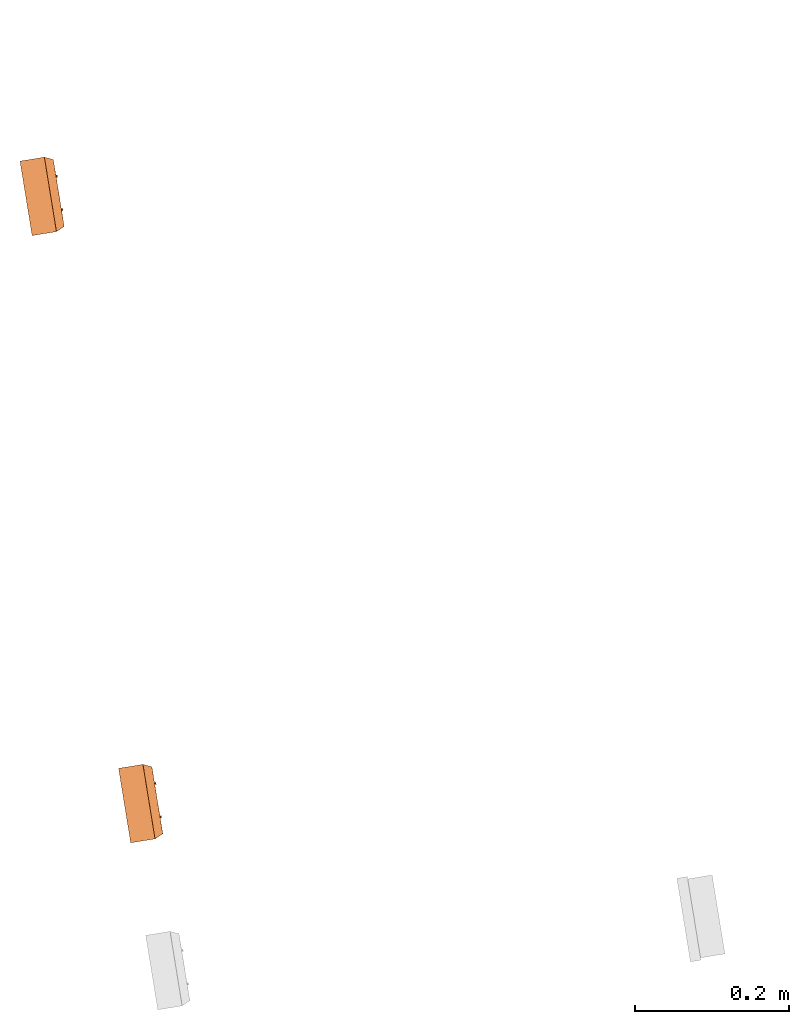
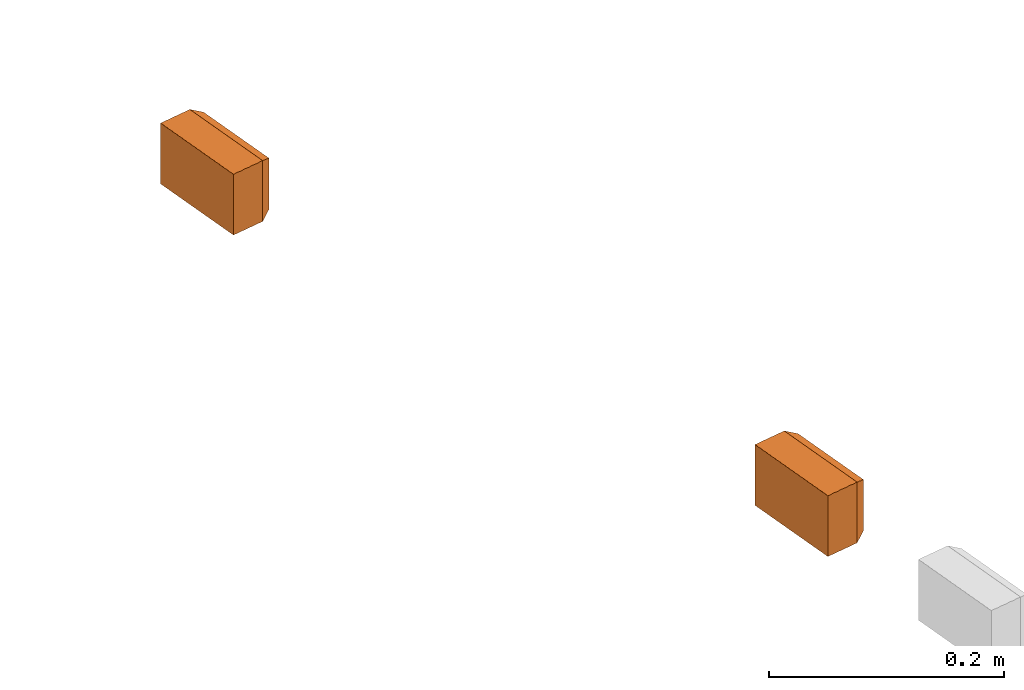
# One storey, part 22 of 33: 2 proxies.
"""IFC2X3 building model written with IfcOpenShell, lengths in millimetres."""

from ifc_helpers import new_model, entity, si_unit, converted_unit, derived_unit, direction, frame, frame_2d, origin, origin_with_axes, origin_2d_with_axis, place, context, subcontext, project, spatial, polyline, circle_curve, parameter, trimmed, segment, composite_curve, rectangle, circle, hollow_circle, outline, extrude, source, transform, mapped, material, type_object, element, save


model = new_model("IFC2X3")

# Units and contexts
plan_context = context("Plan", 3, precision=1e-05, world=origin_with_axes())
model_context = context("Model", 3, precision=0.01, world=origin(), true_north=direction((6.12323399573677e-17, 1.0)))
body_context = subcontext(model_context, "Body", "Model", "MODEL_VIEW")
ifc_project = project(units=[converted_unit("PLANEANGLEUNIT", "DEGREE", entity("IfcPositiveLengthMeasure", 0.0174532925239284), si_unit("PLANEANGLEUNIT", "RADIAN"), dimensions=[0, 0, 0, 0, 0, 0, 0]), si_unit("AREAUNIT", "SQUARE_METRE"), si_unit("LENGTHUNIT", "METRE", prefix="MILLI"), si_unit("MASSUNIT", "GRAM", prefix="KILO"), si_unit("POWERUNIT", "WATT"), si_unit("PRESSUREUNIT", "PASCAL", prefix="KILO"), si_unit("FORCEUNIT", "NEWTON", prefix="KILO"), si_unit("ELECTRICVOLTAGEUNIT", "VOLT"), si_unit("ELECTRICCURRENTUNIT", "AMPERE"), si_unit("THERMODYNAMICTEMPERATUREUNIT", "DEGREE_CELSIUS"), si_unit("TIMEUNIT", "SECOND"), si_unit("VOLUMEUNIT", "CUBIC_METRE"), derived_unit("LINEARVELOCITYUNIT", [(si_unit("LENGTHUNIT", "METRE"), 1), (si_unit("TIMEUNIT", "SECOND"), -1)]), derived_unit("VOLUMETRICFLOWRATEUNIT", [(si_unit("VOLUMEUNIT", "CUBIC_METRE"), 1), (si_unit("TIMEUNIT", "SECOND"), -1)]), derived_unit("THERMALTRANSMITTANCEUNIT", [(si_unit("POWERUNIT", "WATT"), 1), (si_unit("THERMODYNAMICTEMPERATUREUNIT", "KELVIN"), -1), (si_unit("AREAUNIT", "SQUARE_METRE"), -1)]), derived_unit("SOUNDPRESSUREUNIT", [(si_unit("PRESSUREUNIT", "PASCAL"), 1)])], contexts=[model_context, plan_context])

# Site, building, storey
site_placement = place(None, frame((-0.219946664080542, 0.12226179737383, 0.0), z_axis=(0.0, 0.0, 1.0), x_axis=(-0.160236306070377, 0.987078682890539, 0.0)))
site = spatial("IfcSite", under=ifc_project, at=site_placement, Name="Default", CompositionType="ELEMENT")
building_placement = place(site_placement, origin_with_axes())
building = spatial("IfcBuilding", under=site, at=building_placement, CompositionType="ELEMENT")
storey_placement = place(building_placement, frame((0.0, 0.0, 59000.0), z_axis=(0.0, 0.0, 1.0), x_axis=(1.0, 0.0, 0.0)))
storey = spatial("IfcBuildingStorey", under=building, at=storey_placement, Name="Nivå F", CompositionType="ELEMENT", Elevation=59000.0)

# Proxies
ifc_material = material(Name="<Unnamed>")
building_element_proxy_type = type_object("IfcBuildingElementProxyType", Name="Dobbel stikk på vegg 2P+J hor PH:EARTHED-SOCKET-2(HOR)", PredefinedType="NOTDEFINED", material=ifc_material)
shared_shape = source(origin(), body_context, "Body", "SweptSolid", [
    extrude(outline(composite_curve([segment(polyline([(-6.66666666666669, -6.66666666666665), (13.3333333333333, -6.66666666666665)]), True, "CONTINUOUS"), segment(trimmed(circle_curve(frame_2d((13.3333333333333, 13.3333333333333), x_axis=(0.0, -1.0)), 20.0), [parameter(270.0)], [parameter(5.08888749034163e-14)], True, "PARAMETER"), False, "CONTINUOUS"), segment(polyline([(-6.66666666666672, 13.3333333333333), (-6.66666666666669, -6.66666666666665)]), True, "CONTINUOUS")], self_intersect=False)), frame((35.3333333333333, 42.8999999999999, 13.3533333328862), z_axis=(0.0, 1.0, 0.0), x_axis=(0.0, 0.0, -1.0)), (0.0, 0.0, 1.0), 0.199999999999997),
    extrude(outline(composite_curve([segment(polyline([(-6.66666666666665, -6.66666666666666), (13.3333333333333, -6.66666666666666)]), True, "CONTINUOUS"), segment(trimmed(circle_curve(frame_2d((13.3333333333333, 13.3333333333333), x_axis=(-1.0, 0.0)), 20.0), [parameter(360.0)], [parameter(89.9999999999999)], True, "PARAMETER"), False, "CONTINUOUS"), segment(polyline([(-6.66666666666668, 13.3333333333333), (-6.66666666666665, -6.66666666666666)]), True, "CONTINUOUS")], self_intersect=False)), frame((35.3333333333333, 42.8999999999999, -13.3233333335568), z_axis=(0.0, 1.0, 0.0), x_axis=(-1.0, 0.0, 0.0)), (0.0, 0.0, 1.0), 0.199999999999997),
    extrude(outline(composite_curve([segment(polyline([(-6.66666666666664, -6.66666666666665), (13.3333333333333, -6.66666666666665)]), True, "CONTINUOUS"), segment(trimmed(circle_curve(frame_2d((13.3333333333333, 13.3333333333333), x_axis=(-1.0, 0.0)), 20.0), [parameter(0.0)], [parameter(89.9999999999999)], True, "PARAMETER"), False, "CONTINUOUS"), segment(polyline([(-6.66666666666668, 13.3333333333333), (-6.66666666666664, -6.66666666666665)]), True, "CONTINUOUS")], self_intersect=False)), frame((8.66666666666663, 42.8999999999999, 13.3433333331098), z_axis=(0.0, 1.0, 0.0), x_axis=(1.0, 0.0, 0.0)), (0.0, 0.0, 1.0), 0.199999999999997),
    extrude(outline(composite_curve([segment(polyline([(-6.66666666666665, -6.66666666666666), (13.3333333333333, -6.66666666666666)]), True, "CONTINUOUS"), segment(trimmed(circle_curve(frame_2d((13.3333333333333, 13.3333333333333), x_axis=(-1.0, 0.0)), 20.0), [parameter(360.0)], [parameter(89.9999999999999)], True, "PARAMETER"), False, "CONTINUOUS"), segment(polyline([(-6.66666666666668, 13.3333333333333), (-6.66666666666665, -6.66666666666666)]), True, "CONTINUOUS")], self_intersect=False)), frame((35.3333333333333, 42.8999999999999, -13.3433333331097), z_axis=(0.0, 1.0, 0.0), x_axis=(-1.0, 0.0, 0.0)), (0.0, 0.0, 1.0), 0.199999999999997),
    extrude(outline(composite_curve([segment(polyline([(-6.66666666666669, -6.66666666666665), (13.3333333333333, -6.66666666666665)]), True, "CONTINUOUS"), segment(trimmed(circle_curve(frame_2d((13.3333333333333, 13.3333333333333), x_axis=(0.0, -1.0)), 20.0), [parameter(270.0)], [parameter(5.08888749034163e-14)], True, "PARAMETER"), False, "CONTINUOUS"), segment(polyline([(-6.66666666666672, 13.3333333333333), (-6.66666666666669, -6.66666666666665)]), True, "CONTINUOUS")], self_intersect=False)), frame((35.3333333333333, 42.8999999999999, 13.3333333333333), z_axis=(0.0, 1.0, 0.0), x_axis=(0.0, 0.0, -1.0)), (0.0, 0.0, 1.0), 0.199999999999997),
    extrude(outline(composite_curve([segment(polyline([(-6.66666666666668, -6.66666666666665), (13.3333333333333, -6.66666666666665)]), True, "CONTINUOUS"), segment(trimmed(circle_curve(frame_2d((13.3333333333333, 13.3333333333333), x_axis=(0.0, -1.0)), 20.0), [parameter(270.0)], [parameter(0.0)], True, "PARAMETER"), False, "CONTINUOUS"), segment(polyline([(-6.66666666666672, 13.3333333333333), (-6.66666666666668, -6.66666666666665)]), True, "CONTINUOUS")], self_intersect=False)), frame((8.66666666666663, 42.8999999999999, -13.3333333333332), z_axis=(0.0, 1.0, 0.0), x_axis=(0.0, 0.0, 1.0)), (0.0, 0.0, 1.0), 0.199999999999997),
    extrude(outline(composite_curve([segment(polyline([(-6.66666666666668, -6.66666666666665), (13.3333333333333, -6.66666666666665)]), True, "CONTINUOUS"), segment(trimmed(circle_curve(frame_2d((13.3333333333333, 13.3333333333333), x_axis=(0.0, -1.0)), 20.0), [parameter(270.0)], [parameter(0.0)], True, "PARAMETER"), False, "CONTINUOUS"), segment(polyline([(-6.66666666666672, 13.3333333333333), (-6.66666666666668, -6.66666666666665)]), True, "CONTINUOUS")], self_intersect=False)), frame((-8.66666666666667, 42.8999999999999, 13.3533333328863), z_axis=(0.0, 1.0, 0.0), x_axis=(0.0, 0.0, -1.0)), (0.0, 0.0, 1.0), 0.199999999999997),
    extrude(outline(composite_curve([segment(polyline([(-6.66666666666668, -6.66666666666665), (13.3333333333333, -6.66666666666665)]), True, "CONTINUOUS"), segment(trimmed(circle_curve(frame_2d((13.3333333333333, 13.3333333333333), x_axis=(-1.0, 0.0)), 20.0), [parameter(0.0)], [parameter(90.0)], True, "PARAMETER"), False, "CONTINUOUS"), segment(polyline([(-6.66666666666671, 13.3333333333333), (-6.66666666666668, -6.66666666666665)]), True, "CONTINUOUS")], self_intersect=False)), frame((-8.66666666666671, 42.8999999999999, -13.3233333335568), z_axis=(0.0, 1.0, 0.0), x_axis=(-1.0, 0.0, 0.0)), (0.0, 0.0, 1.0), 0.199999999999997),
    extrude(outline(composite_curve([segment(polyline([(-6.66666666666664, -6.66666666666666), (13.3333333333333, -6.66666666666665)]), True, "CONTINUOUS"), segment(trimmed(circle_curve(frame_2d((13.3333333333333, 13.3333333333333), x_axis=(-1.0, 0.0)), 20.0), [parameter(360.0)], [parameter(89.9999999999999)], True, "PARAMETER"), False, "CONTINUOUS"), segment(polyline([(-6.66666666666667, 13.3333333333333), (-6.66666666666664, -6.66666666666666)]), True, "CONTINUOUS")], self_intersect=False)), frame((-35.3333333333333, 42.8999999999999, 13.3433333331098), z_axis=(0.0, 1.0, 0.0), x_axis=(1.0, 0.0, 0.0)), (0.0, 0.0, 1.0), 0.199999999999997),
    extrude(outline(composite_curve([segment(polyline([(-6.66666666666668, -6.66666666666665), (13.3333333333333, -6.66666666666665)]), True, "CONTINUOUS"), segment(trimmed(circle_curve(frame_2d((13.3333333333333, 13.3333333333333), x_axis=(-1.0, 0.0)), 20.0), [parameter(0.0)], [parameter(90.0)], True, "PARAMETER"), False, "CONTINUOUS"), segment(polyline([(-6.66666666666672, 13.3333333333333), (-6.66666666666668, -6.66666666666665)]), True, "CONTINUOUS")], self_intersect=False)), frame((-8.66666666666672, 42.8999999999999, -13.3433333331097), z_axis=(0.0, 1.0, 0.0), x_axis=(-1.0, 0.0, 0.0)), (0.0, 0.0, 1.0), 0.199999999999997),
    extrude(outline(composite_curve([segment(polyline([(-6.66666666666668, -6.66666666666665), (13.3333333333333, -6.66666666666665)]), True, "CONTINUOUS"), segment(trimmed(circle_curve(frame_2d((13.3333333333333, 13.3333333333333), x_axis=(0.0, -1.0)), 20.0), [parameter(270.0)], [parameter(0.0)], True, "PARAMETER"), False, "CONTINUOUS"), segment(polyline([(-6.66666666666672, 13.3333333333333), (-6.66666666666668, -6.66666666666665)]), True, "CONTINUOUS")], self_intersect=False)), frame((-8.66666666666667, 42.8999999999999, 13.3333333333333), z_axis=(0.0, 1.0, 0.0), x_axis=(0.0, 0.0, -1.0)), (0.0, 0.0, 1.0), 0.199999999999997),
    extrude(outline(composite_curve([segment(polyline([(-6.66666666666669, -6.66666666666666), (13.3333333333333, -6.66666666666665)]), True, "CONTINUOUS"), segment(trimmed(circle_curve(frame_2d((13.3333333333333, 13.3333333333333), x_axis=(0.0, -1.0)), 20.0), [parameter(270.0)], [parameter(5.08888749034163e-14)], True, "PARAMETER"), False, "CONTINUOUS"), segment(polyline([(-6.66666666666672, 13.3333333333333), (-6.66666666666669, -6.66666666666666)]), True, "CONTINUOUS")], self_intersect=False)), frame((-35.3333333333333, 42.8999999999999, -13.3333333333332), z_axis=(0.0, 1.0, 0.0), x_axis=(0.0, 0.0, 1.0)), (0.0, 0.0, 1.0), 0.199999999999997),
    extrude(rectangle(XDim=9.99999999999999, YDim=1.0, at=frame_2d((0.0, 2.1094237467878e-15), x_axis=(1.0, 0.0))), frame((22.0, 40.0, -17.6), z_axis=(0.0, 0.0, 1.0), x_axis=(0.0, -1.0, 0.0)), (0.0, 0.0, 1.0), 0.199999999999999),
    extrude(rectangle(XDim=21.5, YDim=1.0, at=frame_2d((0.0, 8.43769498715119e-15), x_axis=(1.0, 0.0))), frame((22.0, 32.25, -19.6), z_axis=(0.0, 0.0, 1.0), x_axis=(0.0, -1.0, 0.0)), (0.0, 0.0, 1.0), 0.200000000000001),
    extrude(rectangle(XDim=9.99999999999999, YDim=1.0, at=frame_2d((0.0, 2.1094237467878e-15), x_axis=(1.0, 0.0))), frame((22.0, 40.0, 17.4), z_axis=(0.0, 0.0, 1.0), x_axis=(0.0, -1.0, 0.0)), (0.0, 0.0, 1.0), 0.199999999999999),
    extrude(rectangle(XDim=21.5, YDim=1.0, at=frame_2d((0.0, 8.43769498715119e-15), x_axis=(1.0, 0.0))), frame((22.0, 32.25, 19.4), z_axis=(0.0, 0.0, 1.0), x_axis=(0.0, -1.0, 0.0)), (0.0, 0.0, 1.0), 0.200000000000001),
    extrude(rectangle(XDim=9.99999999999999, YDim=1.0, at=frame_2d((0.0, -2.1094237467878e-15), x_axis=(1.0, 0.0))), frame((-22.0, 40.0, -17.6), z_axis=(0.0, 0.0, 1.0), x_axis=(0.0, -1.0, 0.0)), (0.0, 0.0, 1.0), 0.199999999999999),
    extrude(rectangle(XDim=21.5, YDim=1.0, at=frame_2d((0.0, 8.43769498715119e-15), x_axis=(1.0, 0.0))), frame((-22.0, 32.25, -19.6), z_axis=(0.0, 0.0, 1.0), x_axis=(0.0, -1.0, 0.0)), (0.0, 0.0, 1.0), 0.200000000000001),
    extrude(rectangle(XDim=9.99999999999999, YDim=1.0, at=frame_2d((0.0, -2.1094237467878e-15), x_axis=(1.0, 0.0))), frame((-22.0, 40.0, 17.4), z_axis=(0.0, 0.0, 1.0), x_axis=(0.0, -1.0, 0.0)), (0.0, 0.0, 1.0), 0.199999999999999),
    extrude(rectangle(XDim=21.5, YDim=1.0, at=frame_2d((0.0, 8.43769498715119e-15), x_axis=(1.0, 0.0))), frame((-22.0, 32.25, 19.4), z_axis=(0.0, 0.0, 1.0), x_axis=(0.0, -1.0, 0.0)), (0.0, 0.0, 1.0), 0.200000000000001),
    extrude(rectangle(XDim=0.199999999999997, YDim=2.0, at=frame_2d((4.2257863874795e-15, 0.0), x_axis=(1.0, 0.0))), frame((43.0, 43.0, 0.0199999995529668), z_axis=(0.0, 0.0, 1.0), x_axis=(0.0, 1.0, 0.0)), (0.0, 0.0, 1.0), 20.0),
    extrude(rectangle(XDim=0.199999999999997, YDim=40.0, at=frame_2d((4.2257863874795e-15, 0.0), x_axis=(1.0, 0.0))), frame((22.0, 43.0, 20.0199999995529), z_axis=(0.0, 0.0, 1.0), x_axis=(0.0, 1.0, 0.0)), (0.0, 0.0, 1.0), 6.5),
    extrude(rectangle(XDim=0.199999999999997, YDim=2.0, at=frame_2d((4.2257863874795e-15, 0.0), x_axis=(1.0, 0.0))), frame((43.0, 43.0, -19.9900000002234), z_axis=(0.0, 0.0, 1.0), x_axis=(0.0, -1.0, 0.0)), (0.0, 0.0, 1.0), 20.0),
    extrude(rectangle(XDim=0.199999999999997, YDim=40.0, at=frame_2d((4.2257863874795e-15, 0.0), x_axis=(1.0, 0.0))), frame((22.0, 43.0, -26.4900000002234), z_axis=(0.0, 0.0, 1.0), x_axis=(0.0, -1.0, 0.0)), (0.0, 0.0, 1.0), 6.49999999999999),
    extrude(rectangle(XDim=0.199999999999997, YDim=2.0, at=frame_2d((4.2257863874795e-15, 0.0), x_axis=(1.0, 0.0))), frame((1.0, 43.0, 0.00999999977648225), z_axis=(0.0, 0.0, 1.0), x_axis=(0.0, -1.0, 0.0)), (0.0, 0.0, 1.0), 20.0),
    extrude(rectangle(XDim=0.199999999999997, YDim=2.0, at=frame_2d((4.2257863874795e-15, 0.0), x_axis=(1.0, 0.0))), frame((43.0, 43.0, -20.0099999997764), z_axis=(0.0, 0.0, 1.0), x_axis=(0.0, -1.0, 0.0)), (0.0, 0.0, 1.0), 20.0),
    extrude(rectangle(XDim=0.199999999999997, YDim=40.0, at=frame_2d((4.2257863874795e-15, 0.0), x_axis=(1.0, 0.0))), frame((22.0, 43.0, -26.5099999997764), z_axis=(0.0, 0.0, 1.0), x_axis=(0.0, -1.0, 0.0)), (0.0, 0.0, 1.0), 6.5),
    extrude(rectangle(XDim=0.199999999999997, YDim=2.0, at=frame_2d((4.2257863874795e-15, 0.0), x_axis=(1.0, 0.0))), frame((43.0, 43.0, 0.0), z_axis=(0.0, 0.0, 1.0), x_axis=(0.0, 1.0, 0.0)), (0.0, 0.0, 1.0), 20.0),
    extrude(rectangle(XDim=0.199999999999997, YDim=40.0, at=frame_2d((4.2257863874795e-15, 0.0), x_axis=(1.0, 0.0))), frame((22.0, 43.0, 20.0), z_axis=(0.0, 0.0, 1.0), x_axis=(0.0, 1.0, 0.0)), (0.0, 0.0, 1.0), 6.5),
    extrude(rectangle(XDim=0.199999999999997, YDim=2.0, at=frame_2d((4.2257863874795e-15, 0.0), x_axis=(1.0, 0.0))), frame((1.0, 43.0, -20.0), z_axis=(0.0, 0.0, 1.0), x_axis=(0.0, 1.0, 0.0)), (0.0, 0.0, 1.0), 20.0),
    extrude(rectangle(XDim=0.199999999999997, YDim=2.0, at=frame_2d((4.2257863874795e-15, 0.0), x_axis=(1.0, 0.0))), frame((-1.0, 43.0, 0.0199999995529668), z_axis=(0.0, 0.0, 1.0), x_axis=(0.0, 1.0, 0.0)), (0.0, 0.0, 1.0), 20.0),
    extrude(rectangle(XDim=0.199999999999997, YDim=40.0, at=frame_2d((4.2257863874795e-15, 0.0), x_axis=(1.0, 0.0))), frame((-22.0, 43.0, 20.0199999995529), z_axis=(0.0, 0.0, 1.0), x_axis=(0.0, 1.0, 0.0)), (0.0, 0.0, 1.0), 6.5),
    extrude(rectangle(XDim=0.199999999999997, YDim=2.0, at=frame_2d((4.2257863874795e-15, 0.0), x_axis=(1.0, 0.0))), frame((-1.0, 43.0, -19.9900000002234), z_axis=(0.0, 0.0, 1.0), x_axis=(0.0, -1.0, 0.0)), (0.0, 0.0, 1.0), 20.0),
    extrude(rectangle(XDim=0.199999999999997, YDim=40.0, at=frame_2d((4.2257863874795e-15, 0.0), x_axis=(1.0, 0.0))), frame((-22.0, 43.0, -26.4900000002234), z_axis=(0.0, 0.0, 1.0), x_axis=(0.0, -1.0, 0.0)), (0.0, 0.0, 1.0), 6.49999999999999),
    extrude(rectangle(XDim=0.199999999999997, YDim=1.99999999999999, at=frame_2d((4.2257863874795e-15, 4.2188474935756e-15), x_axis=(1.0, 0.0))), frame((-43.0, 43.0, 0.00999999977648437), z_axis=(0.0, 0.0, 1.0), x_axis=(0.0, -1.0, 0.0)), (0.0, 0.0, 1.0), 20.0),
    extrude(rectangle(XDim=0.199999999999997, YDim=2.0, at=frame_2d((4.2257863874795e-15, 0.0), x_axis=(1.0, 0.0))), frame((-1.0, 43.0, -20.0099999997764), z_axis=(0.0, 0.0, 1.0), x_axis=(0.0, -1.0, 0.0)), (0.0, 0.0, 1.0), 20.0),
    extrude(rectangle(XDim=0.199999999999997, YDim=40.0, at=frame_2d((4.2257863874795e-15, 0.0), x_axis=(1.0, 0.0))), frame((-22.0, 43.0, -26.5099999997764), z_axis=(0.0, 0.0, 1.0), x_axis=(0.0, -1.0, 0.0)), (0.0, 0.0, 1.0), 6.5),
    extrude(rectangle(XDim=0.199999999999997, YDim=2.0, at=frame_2d((4.2257863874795e-15, 0.0), x_axis=(1.0, 0.0))), frame((-1.0, 43.0, 0.0), z_axis=(0.0, 0.0, 1.0), x_axis=(0.0, 1.0, 0.0)), (0.0, 0.0, 1.0), 20.0),
    extrude(rectangle(XDim=0.199999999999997, YDim=40.0, at=frame_2d((4.2257863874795e-15, 0.0), x_axis=(1.0, 0.0))), frame((-22.0, 43.0, 20.0), z_axis=(0.0, 0.0, 1.0), x_axis=(0.0, 1.0, 0.0)), (0.0, 0.0, 1.0), 6.5),
    extrude(rectangle(XDim=0.199999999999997, YDim=1.99999999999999, at=frame_2d((4.2257863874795e-15, -4.2188474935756e-15), x_axis=(1.0, 0.0))), frame((-43.0, 43.0, -20.0), z_axis=(0.0, 0.0, 1.0), x_axis=(0.0, 1.0, 0.0)), (0.0, 0.0, 1.0), 20.0),
    extrude(rectangle(XDim=0.199999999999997, YDim=2.0, at=frame_2d((4.2257863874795e-15, 0.0), x_axis=(1.0, 0.0))), frame((-1.0, 43.0, -26.5), z_axis=(0.0, 0.0, 1.0), x_axis=(0.0, 1.0, 0.0)), (0.0, 0.0, 1.0), 6.49999999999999),
    extrude(rectangle(XDim=0.199999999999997, YDim=1.99999999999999, at=frame_2d((4.2257863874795e-15, 4.2188474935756e-15), x_axis=(1.0, 0.0))), frame((-43.0, 43.0, -26.5), z_axis=(0.0, 0.0, 1.0), x_axis=(0.0, 1.0, 0.0)), (0.0, 0.0, 1.0), 6.49999999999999),
    extrude(rectangle(XDim=0.199999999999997, YDim=2.0, at=frame_2d((4.2257863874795e-15, 0.0), x_axis=(1.0, 0.0))), frame((1.0, 43.0, -26.5), z_axis=(0.0, 0.0, 1.0), x_axis=(0.0, 1.0, 0.0)), (0.0, 0.0, 1.0), 6.49999999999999),
    extrude(rectangle(XDim=0.199999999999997, YDim=1.99999999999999, at=frame_2d((4.2257863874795e-15, -4.2188474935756e-15), x_axis=(1.0, 0.0))), frame((43.0, 43.0, -26.5), z_axis=(0.0, 0.0, 1.0), x_axis=(0.0, 1.0, 0.0)), (0.0, 0.0, 1.0), 6.49999999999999),
    extrude(outline(polyline([(-24.3180677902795, -42.966633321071), (-11.2413709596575, -42.9666333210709), (22.4062700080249, 38.3465652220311), (13.1531687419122, 47.5867014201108), (-24.3180677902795, -42.966633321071)])), frame((0.0, 37.5413802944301, -29.0910366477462), z_axis=(0.0, -0.413802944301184, 0.910366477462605), x_axis=(-0.382359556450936, 0.84119102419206, 0.382359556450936)), (0.0, 0.0, 1.0), 0.199999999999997),
    extrude(outline(polyline([(-31.5, -6.04152298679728), (31.5, -6.04152298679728), (26.5, 6.04152298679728), (-26.5, 6.04152298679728), (-31.5, -6.04152298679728)])), frame((-46.5910366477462, 37.5413802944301, 0.0), z_axis=(0.910366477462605, -0.413802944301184, 0.0), x_axis=(0.0, 0.0, -1.0)), (0.0, 0.0, 1.0), 0.200000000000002),
    extrude(outline(polyline([(-31.5, -6.04152298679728), (31.5, -6.04152298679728), (26.5, 6.04152298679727), (-26.5, 6.04152298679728), (-31.5, -6.04152298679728)])), frame((46.4089633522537, 37.4586197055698, 0.0), z_axis=(0.910366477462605, 0.413802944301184, 0.0), x_axis=(0.0, 0.0, -1.0)), (0.0, 0.0, 1.0), 0.199999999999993),
    extrude(rectangle(XDim=32.0, YDim=97.9999999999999, at=frame_2d((1.77635683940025e-15, 0.0), x_axis=(1.0, 0.0))), frame((0.0, 16.0, -31.6), z_axis=(0.0, 0.0, 1.0), x_axis=(0.0, -1.0, 0.0)), (0.0, 0.0, 1.0), 0.200000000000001),
    extrude(rectangle(XDim=0.199999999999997, YDim=2.0, at=frame_2d((4.2257863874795e-15, 0.0), x_axis=(1.0, 0.0))), frame((-1.0, 43.0, 20.0), z_axis=(0.0, 0.0, 1.0), x_axis=(0.0, 1.0, 0.0)), (0.0, 0.0, 1.0), 6.49999999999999),
    extrude(rectangle(XDim=0.199999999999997, YDim=1.99999999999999, at=frame_2d((4.2257863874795e-15, 4.2188474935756e-15), x_axis=(1.0, 0.0))), frame((-43.0, 43.0, 20.0), z_axis=(0.0, 0.0, 1.0), x_axis=(0.0, 1.0, 0.0)), (0.0, 0.0, 1.0), 6.49999999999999),
    extrude(outline(polyline([(-44.0, -6.04152298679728), (44.0, -6.04152298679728), (49.0, 6.04152298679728), (-49.0, 6.04152298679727), (-44.0, -6.04152298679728)])), frame((0.0, 37.4586197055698, 28.9089633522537), z_axis=(0.0, 0.413802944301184, 0.910366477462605), x_axis=(-1.0, 0.0, 0.0)), (0.0, 0.0, 1.0), 0.200000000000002),
    extrude(rectangle(XDim=0.199999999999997, YDim=2.0, at=frame_2d((4.2257863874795e-15, 0.0), x_axis=(1.0, 0.0))), frame((1.0, 43.0, 20.0), z_axis=(0.0, 0.0, 1.0), x_axis=(0.0, 1.0, 0.0)), (0.0, 0.0, 1.0), 6.49999999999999),
    extrude(rectangle(XDim=0.199999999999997, YDim=1.99999999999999, at=frame_2d((4.2257863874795e-15, -4.2188474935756e-15), x_axis=(1.0, 0.0))), frame((43.0, 43.0, 20.0), z_axis=(0.0, 0.0, 1.0), x_axis=(0.0, 1.0, 0.0)), (0.0, 0.0, 1.0), 6.49999999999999),
    extrude(rectangle(XDim=32.0, YDim=97.9999999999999, at=frame_2d((1.77635683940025e-15, 0.0), x_axis=(1.0, 0.0))), frame((0.0, 16.0, 31.4), z_axis=(0.0, 0.0, 1.0), x_axis=(0.0, -1.0, 0.0)), (0.0, 0.0, 1.0), 0.200000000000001),
    extrude(rectangle(XDim=0.199999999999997, YDim=32.0, at=frame_2d((-4.2257863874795e-15, 0.0), x_axis=(1.0, 0.0))), frame((49.0, 16.0, -31.5)), (0.0, 0.0, 1.0), 62.9999999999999),
    extrude(rectangle(XDim=0.199999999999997, YDim=32.0, at=frame_2d((-4.2257863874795e-15, 0.0), x_axis=(1.0, 0.0))), frame((-49.0, 16.0, -31.5)), (0.0, 0.0, 1.0), 62.9999999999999),
    extrude(rectangle(XDim=0.2, YDim=97.9999999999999, at=origin_2d_with_axis()), frame((0.0, 0.0, -31.5), z_axis=(0.0, 0.0, 1.0), x_axis=(0.0, 1.0, 0.0)), (0.0, 0.0, 1.0), 62.9999999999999),
    extrude(circle(Radius=2.5, at=frame_2d((0.0, -4.22994972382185e-15), x_axis=(1.0, 0.0))), frame((32.0, 21.450000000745, 0.0), z_axis=(0.0, 1.0, 0.0), x_axis=(0.0, 0.0, 1.0)), (0.0, 0.0, 1.0), 0.200000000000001),
    extrude(circle(Radius=2.5, at=frame_2d((0.0, -4.22994972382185e-15), x_axis=(1.0, 0.0))), frame((12.0, 21.450000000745, 0.0), z_axis=(0.0, 1.0, 0.0), x_axis=(0.0, 0.0, 1.0)), (0.0, 0.0, 1.0), 0.200000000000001),
    extrude(circle(Radius=2.5, at=frame_2d((0.0, -4.22994972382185e-15), x_axis=(1.0, 0.0))), frame((-12.0, 21.450000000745, 0.0), z_axis=(0.0, 1.0, 0.0), x_axis=(0.0, 0.0, 1.0)), (0.0, 0.0, 1.0), 0.200000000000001),
    extrude(circle(Radius=2.5, at=frame_2d((0.0, -4.22994972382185e-15), x_axis=(1.0, 0.0))), frame((-32.0, 21.450000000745, 0.0), z_axis=(0.0, 1.0, 0.0), x_axis=(0.0, 0.0, 1.0)), (0.0, 0.0, 1.0), 0.200000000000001),
    extrude(circle(Radius=20.0, at=frame_2d((0.0, -2.96096480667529e-14), x_axis=(1.0, 0.0))), frame((22.0, 21.4, 0.0), z_axis=(0.0, 1.0, 0.0), x_axis=(0.0, 0.0, 1.0)), (0.0, 0.0, 1.0), 0.200000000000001),
    extrude(circle(Radius=20.0, at=frame_2d((0.0, -2.96096480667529e-14), x_axis=(1.0, 0.0))), frame((-22.0, 21.4, 0.0), z_axis=(0.0, 1.0, 0.0), x_axis=(0.0, 0.0, 1.0)), (0.0, 0.0, 1.0), 0.200000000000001),
    extrude(outline(composite_curve([segment(trimmed(circle_curve(frame_2d((-0.800000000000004, 0.800000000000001), x_axis=(1.0, 0.0)), 2.0), [parameter(270.0)], [parameter(0.0)], True, "PARAMETER"), True, "CONTINUOUS"), segment(polyline([(1.2, 0.8), (0.399999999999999, 0.8)]), True, "CONTINUOUS"), segment(trimmed(circle_curve(frame_2d((-0.800000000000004, 0.799999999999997), x_axis=(0.0, -1.0)), 1.2), [parameter(0.0)], [parameter(89.9999999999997)], True, "PARAMETER"), False, "CONTINUOUS"), segment(polyline([(-0.799999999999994, -0.400000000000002), (-0.799999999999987, -1.2)]), True, "CONTINUOUS")], self_intersect=False)), frame((20.5, 43.7999999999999, -18.3), z_axis=(1.0, 0.0, 0.0), x_axis=(0.0, 1.0, 0.0)), (0.0, 0.0, 1.0), 2.0),
    extrude(outline(composite_curve([segment(polyline([(-1.2, -0.800000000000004), (-0.399999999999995, -0.800000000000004)]), True, "CONTINUOUS"), segment(trimmed(circle_curve(frame_2d((0.800000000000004, -0.800000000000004), x_axis=(-1.0, 0.0)), 1.2), [parameter(270.0)], [parameter(0.0)], True, "PARAMETER"), False, "CONTINUOUS"), segment(polyline([(0.799999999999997, 0.399999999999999), (0.79999999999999, 1.2)]), True, "CONTINUOUS"), segment(trimmed(circle_curve(frame_2d((0.800000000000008, -0.800000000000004), x_axis=(0.0, 1.0)), 2.0), [parameter(0.0)], [parameter(89.9999999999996)], True, "PARAMETER"), True, "CONTINUOUS")], self_intersect=False)), frame((21.5, 43.8, 18.3), z_axis=(1.0, 0.0, 0.0), x_axis=(0.0, 0.0, -1.0)), (0.0, 0.0, 1.0), 2.0),
    extrude(outline(composite_curve([segment(trimmed(circle_curve(frame_2d((-0.800000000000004, 0.800000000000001), x_axis=(1.0, 0.0)), 2.0), [parameter(270.0)], [parameter(0.0)], True, "PARAMETER"), True, "CONTINUOUS"), segment(polyline([(1.2, 0.8), (0.399999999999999, 0.8)]), True, "CONTINUOUS"), segment(trimmed(circle_curve(frame_2d((-0.800000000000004, 0.799999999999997), x_axis=(0.0, -1.0)), 1.2), [parameter(0.0)], [parameter(89.9999999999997)], True, "PARAMETER"), False, "CONTINUOUS"), segment(polyline([(-0.799999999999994, -0.400000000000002), (-0.799999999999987, -1.2)]), True, "CONTINUOUS")], self_intersect=False)), frame((-23.5, 43.7999999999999, -18.3), z_axis=(1.0, 0.0, 0.0), x_axis=(0.0, 1.0, 0.0)), (0.0, 0.0, 1.0), 2.0),
    extrude(outline(composite_curve([segment(polyline([(-1.2, -0.800000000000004), (-0.399999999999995, -0.800000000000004)]), True, "CONTINUOUS"), segment(trimmed(circle_curve(frame_2d((0.800000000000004, -0.800000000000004), x_axis=(-1.0, 0.0)), 1.2), [parameter(270.0)], [parameter(0.0)], True, "PARAMETER"), False, "CONTINUOUS"), segment(polyline([(0.799999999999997, 0.399999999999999), (0.79999999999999, 1.2)]), True, "CONTINUOUS"), segment(trimmed(circle_curve(frame_2d((0.800000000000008, -0.800000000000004), x_axis=(0.0, 1.0)), 2.0), [parameter(0.0)], [parameter(89.9999999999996)], True, "PARAMETER"), True, "CONTINUOUS")], self_intersect=False)), frame((-22.5, 43.8, 18.3), z_axis=(1.0, 0.0, 0.0), x_axis=(0.0, 0.0, -1.0)), (0.0, 0.0, 1.0), 2.0),
    extrude(hollow_circle(Radius=20.0, WallThickness=0.199999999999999, at=frame_2d((0.0, -2.96096480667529e-14), x_axis=(1.0, 0.0))), frame((22.0, 21.5, 0.0), z_axis=(0.0, 1.0, 0.0), x_axis=(0.0, 0.0, 1.0)), (0.0, 0.0, 1.0), 21.5),
    extrude(hollow_circle(Radius=20.0, WallThickness=0.199999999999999, at=frame_2d((0.0, -2.96096480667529e-14), x_axis=(1.0, 0.0))), frame((-22.0, 21.5, 0.0), z_axis=(0.0, 1.0, 0.0), x_axis=(0.0, 0.0, 1.0)), (0.0, 0.0, 1.0), 21.5),
])
for number, where, z_axis, x_axis in (
    (1, (781077.619644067, -501027.580498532, 700.0), (0.0, 0.0, 1.0), (-1.0, 0.0, 0.0)),
    (2, (780277.619644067, -501027.580498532, 800.0), (0.0, 0.0, 1.0), (-1.0, 0.0, 0.0)),
):
    element("IfcBuildingElementProxy", number, at=place(storey_placement, frame(where, z_axis=z_axis, x_axis=x_axis)), inside=storey, type_object=building_element_proxy_type, material=ifc_material, Name="Dobbel stikk på vegg 2P+J hor PH:EARTHED-SOCKET-2(HOR)", ObjectType="Dobbel stikk på vegg 2P+J hor PH:EARTHED-SOCKET-2(HOR)", context=body_context, shape_type="MappedRepresentation", body=[
        mapped(shared_shape, transform((0.0, 0.0, 0.0), scale=1.0)),
    ])

save(model, "model.ifc")
